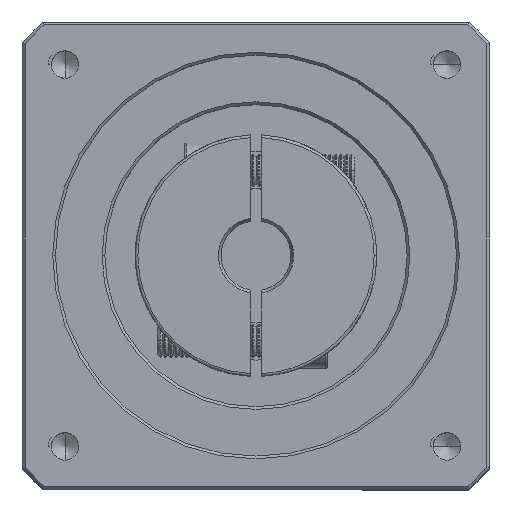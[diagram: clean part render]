
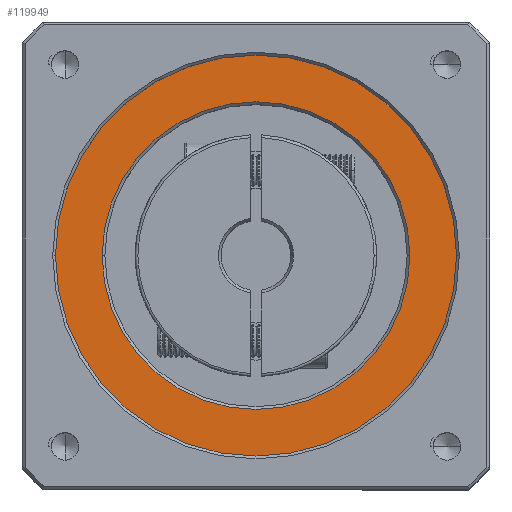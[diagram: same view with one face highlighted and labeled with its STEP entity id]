
A CAD part, top view. The second image highlights one B-rep face of the part: STEP entity #119949.
In plain terms, the highlighted planar face has unit normal (0, 0, 1).
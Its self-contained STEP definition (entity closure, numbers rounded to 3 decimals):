
#1156 = VERTEX_POINT ( 'NONE', #66371 ) ;
#2692 = CARTESIAN_POINT ( 'NONE',  ( -23.958, -3.838, 176.5 ) ) ;
#4057 = CIRCLE ( 'NONE', #42018, 36.5 ) ;
#9724 = DIRECTION ( 'NONE',  ( 1., 0., 0. ) ) ;
#11237 = CARTESIAN_POINT ( 'NONE',  ( -23.958, -3.838, 176.5 ) ) ;
#12957 = CIRCLE ( 'NONE', #92148, 28. ) ;
#18028 = CARTESIAN_POINT ( 'NONE',  ( -23.958, -3.838, 176.5 ) ) ;
#28479 = ORIENTED_EDGE ( 'NONE', *, *, #37423, .T. ) ;
#29439 = CIRCLE ( 'NONE', #83636, 36.5 ) ;
#31339 = ORIENTED_EDGE ( 'NONE', *, *, #61979, .T. ) ;
#31678 = CARTESIAN_POINT ( 'NONE',  ( 4.042, -3.838, 176.5 ) ) ;
#34451 = DIRECTION ( 'NONE',  ( 1., 0., 0. ) ) ;
#36917 = CARTESIAN_POINT ( 'NONE',  ( -23.958, -3.838, 176.5 ) ) ;
#37387 = FACE_BOUND ( 'NONE', #75437, .T. ) ;
#37423 = EDGE_CURVE ( 'NONE', #68037, #108237, #84173, .T. ) ;
#40489 = DIRECTION ( 'NONE',  ( 0., 0., 1. ) ) ;
#41068 = EDGE_CURVE ( 'NONE', #108237, #68037, #12957, .T. ) ;
#42018 = AXIS2_PLACEMENT_3D ( 'NONE', #11237, #40489, #59184 ) ;
#43648 = CARTESIAN_POINT ( 'NONE',  ( -23.958, -3.838, 176.5 ) ) ;
#47728 = DIRECTION ( 'NONE',  ( 0., 0., -1. ) ) ;
#49925 = AXIS2_PLACEMENT_3D ( 'NONE', #2692, #88429, #108876 ) ;
#53623 = PLANE ( 'NONE',  #97652 ) ;
#59184 = DIRECTION ( 'NONE',  ( 1., 0., 0. ) ) ;
#61979 = EDGE_CURVE ( 'NONE', #75734, #1156, #4057, .T. ) ;
#66371 = CARTESIAN_POINT ( 'NONE',  ( -60.458, -3.838, 176.5 ) ) ;
#68037 = VERTEX_POINT ( 'NONE', #70084 ) ;
#70084 = CARTESIAN_POINT ( 'NONE',  ( -51.958, -3.838, 176.5 ) ) ;
#75437 = EDGE_LOOP ( 'NONE', ( #117329, #28479 ) ) ;
#75734 = VERTEX_POINT ( 'NONE', #102896 ) ;
#83636 = AXIS2_PLACEMENT_3D ( 'NONE', #36917, #113536, #103478 ) ;
#84173 = CIRCLE ( 'NONE', #49925, 28. ) ;
#85519 = EDGE_CURVE ( 'NONE', #1156, #75734, #29439, .T. ) ;
#88429 = DIRECTION ( 'NONE',  ( 0., 0., -1. ) ) ;
#88908 = EDGE_LOOP ( 'NONE', ( #31339, #96860 ) ) ;
#92148 = AXIS2_PLACEMENT_3D ( 'NONE', #18028, #47728, #9724 ) ;
#96860 = ORIENTED_EDGE ( 'NONE', *, *, #85519, .T. ) ;
#97652 = AXIS2_PLACEMENT_3D ( 'NONE', #43648, #110195, #34451 ) ;
#102896 = CARTESIAN_POINT ( 'NONE',  ( 12.542, -3.838, 176.5 ) ) ;
#103478 = DIRECTION ( 'NONE',  ( 1., 0., 0. ) ) ;
#108237 = VERTEX_POINT ( 'NONE', #31678 ) ;
#108876 = DIRECTION ( 'NONE',  ( 1., 0., 0. ) ) ;
#110195 = DIRECTION ( 'NONE',  ( 0., 0., 1. ) ) ;
#113536 = DIRECTION ( 'NONE',  ( 0., 0., 1. ) ) ;
#117329 = ORIENTED_EDGE ( 'NONE', *, *, #41068, .T. ) ;
#117908 = FACE_OUTER_BOUND ( 'NONE', #88908, .T. ) ;
#119949 = ADVANCED_FACE ( 'NONE', ( #117908, #37387 ), #53623, .T. ) ;
